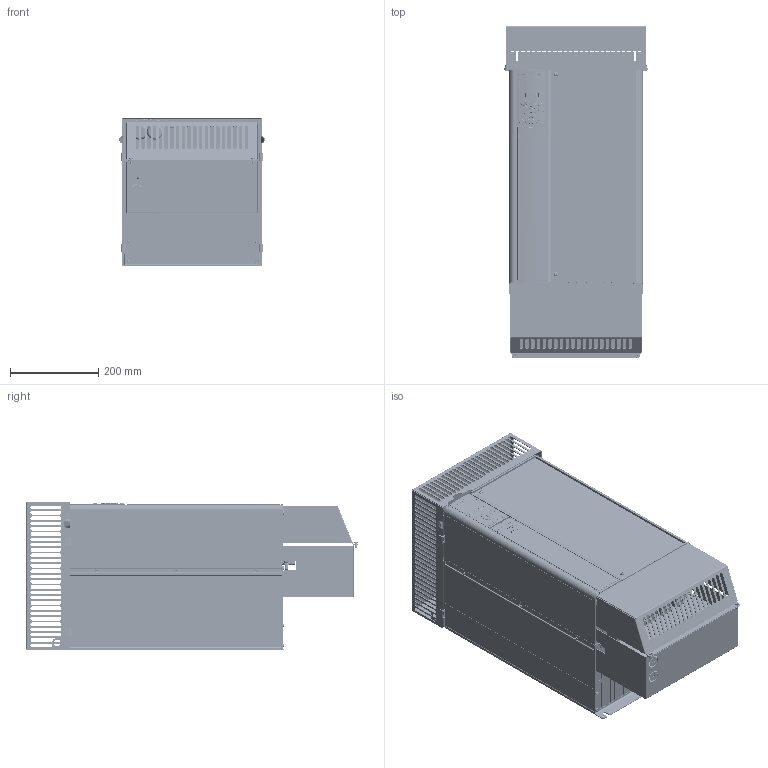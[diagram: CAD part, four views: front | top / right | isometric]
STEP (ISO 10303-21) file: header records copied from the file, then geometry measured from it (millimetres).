
FILE_DESCRIPTION((''),'2;1');
FILE_NAME('DANFOSS-FC100-C3-NEMA1-KIT-194','2008-10-23T',('Abhilash.Paramesh'),('Danfoss Drives A/S'),'PRO/ENGINEER BY PARAMETRIC TECHNOLOGY CORPORATION, 2007160','PRO/ENGINEER BY PARAMETRIC TECHNOLOGY CORPORATION, 2007160','');
FILE_SCHEMA(('CONFIG_CONTROL_DESIGN', 'GEOMETRIC_VALIDATION_PROPERTIES_MIM'));
Products named in the file (1): DANFOSS-FC100-C3-NEMA1-KIT-194
Bounding box: 328.72 x 751.65 x 337 mm (x, y, z)
Volume: 45732449 mm3; surface area: 2803395.4 mm2
Topology: 2 solids, 34 shells, 7451 faces, 20409 edges, 13050 vertices
Faces by surface type: plane 4165, cylinder 2153, bspline 710, torus 158, cone 102, sphere 82, extrusion 81
Entity records: 441711 total; most frequent: CARTESIAN_POINT 151610, ORIENTED_EDGE 40626, DIRECTION 34220, PRESENTATION_STYLE_ASSIGNMENT 24606, STYLED_ITEM 20399, CURVE_STYLE 20393, EDGE_CURVE 20313, VERTEX_POINT 13050
